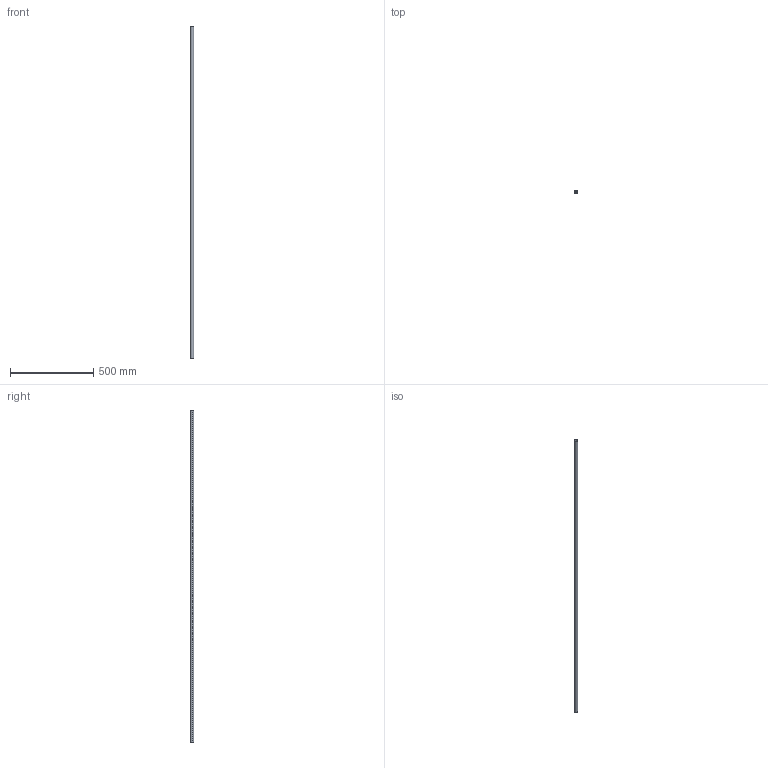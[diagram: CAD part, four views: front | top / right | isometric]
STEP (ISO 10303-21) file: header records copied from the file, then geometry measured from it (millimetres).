
FILE_DESCRIPTION (( 'STEP AP214' ), '1' );
FILE_NAME ('PCT20-2000.STEP', '2022-12-13T01:27:05', ( '' ), ( '' ), 'SwSTEP 2.0', 'SolidWorks 2018', '' );
FILE_SCHEMA (( 'AUTOMOTIVE_DESIGN' ));
Length unit declared in the file: millimetre
Products named in the file (1): PCT20-2000
Bounding box: 20 x 20 x 2000 mm (x, y, z)
Volume: 141748.7 mm3; surface area: 236389.5 mm2
Topology: 1 solids, 1 shells, 6 faces, 12 edges, 8 vertices
Faces by surface type: cylinder 4, plane 2
Entity records: 202 total; most frequent: DIRECTION 34, CARTESIAN_POINT 27, ORIENTED_EDGE 24, AXIS2_PLACEMENT_3D 15, EDGE_CURVE 12, VERTEX_POINT 8, CIRCLE 8, EDGE_LOOP 8
